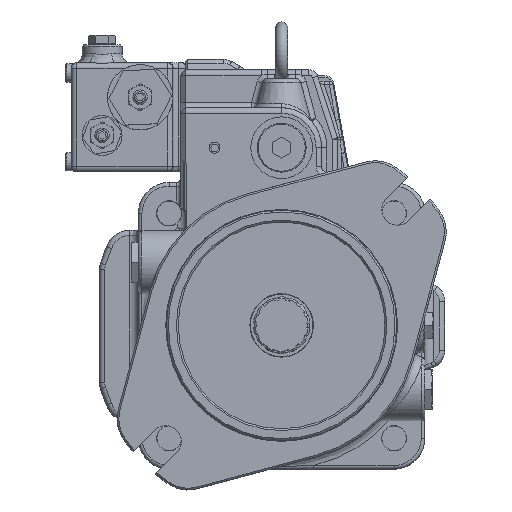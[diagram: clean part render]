
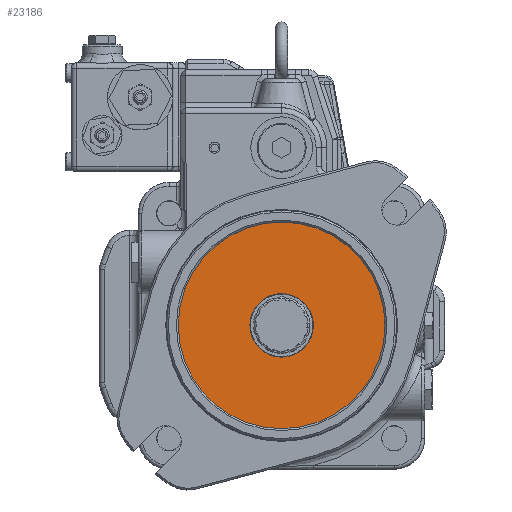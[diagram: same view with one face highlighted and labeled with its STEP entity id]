
A CAD part, top view. The second image highlights one B-rep face of the part: STEP entity #23186.
In plain terms, the highlighted planar face has unit normal (0, 0, 1).
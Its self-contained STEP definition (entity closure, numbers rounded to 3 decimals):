
#8598=CARTESIAN_POINT('',(-16.505,-4.562,308.2));
#8599=VERTEX_POINT('',#8598);
#8600=CARTESIAN_POINT('',(-2.662,6.143,308.2));
#8601=DIRECTION('',(0.,0.,-1.));
#8602=DIRECTION('',(0.791,0.612,0.));
#8603=AXIS2_PLACEMENT_3D('',#8600,#8601,#8602);
#8604=CIRCLE('',#8603,17.5);
#8605=EDGE_CURVE('',#8599,#8599,#8604,.T.);
#13336=CARTESIAN_POINT('',(54.338,6.143,308.2));
#13337=VERTEX_POINT('',#13336);
#13338=CARTESIAN_POINT('',(-2.662,6.143,308.2));
#13339=DIRECTION('',(0.0,0.0,1.0));
#13340=DIRECTION('',(-1.0,0.0,0.0));
#13341=AXIS2_PLACEMENT_3D('',#13338,#13339,#13340);
#13342=CIRCLE('',#13341,57.0);
#13343=EDGE_CURVE('',#13337,#13337,#13342,.T.);
#23175=CARTESIAN_POINT('',(-2.662,6.143,308.2));
#23176=DIRECTION('',(0.0,0.0,-1.0));
#23177=DIRECTION('',(-1.0,0.0,0.0));
#23178=AXIS2_PLACEMENT_3D('',#23175,#23176,#23177);
#23179=PLANE('',#23178);
#23180=ORIENTED_EDGE('',*,*,#13343,.T.);
#23181=EDGE_LOOP('',(#23180));
#23182=FACE_OUTER_BOUND('',#23181,.T.);
#23183=ORIENTED_EDGE('',*,*,#8605,.T.);
#23184=EDGE_LOOP('',(#23183));
#23185=FACE_BOUND('',#23184,.T.);
#23186=ADVANCED_FACE('',(#23182,#23185),#23179,.F.);
